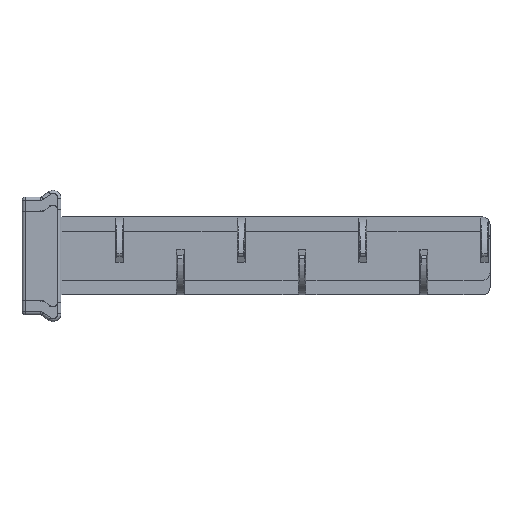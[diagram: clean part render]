
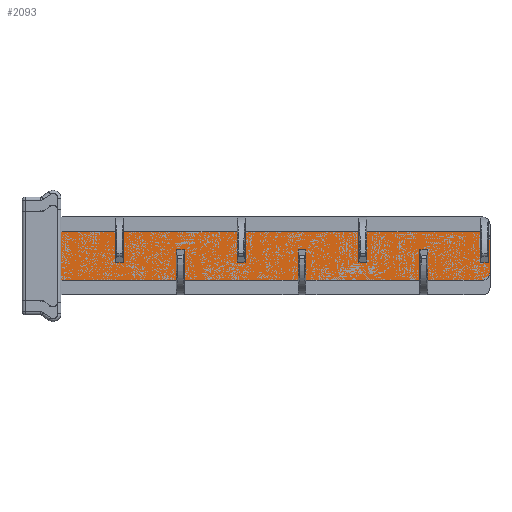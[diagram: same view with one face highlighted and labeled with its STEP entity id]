
A CAD part, left-side view. The second image highlights one B-rep face of the part: STEP entity #2093.
In plain terms, the highlighted planar face has unit normal (-1, 0, 0).
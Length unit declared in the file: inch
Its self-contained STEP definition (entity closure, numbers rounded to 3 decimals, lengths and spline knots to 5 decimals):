
#192=DIRECTION('',(0.,0.,1.));
#193=VECTOR('',#192,0.312);
#194=CARTESIAN_POINT('',(-0.025,0.,-0.156));
#195=LINE('',#194,#193);
#212=CARTESIAN_POINT('',(-0.025,-2.7,-0.106));
#213=DIRECTION('',(1.,0.,0.));
#214=DIRECTION('',(0.,-1.,0.));
#215=AXIS2_PLACEMENT_3D('',#212,#213,#214);
#217=DIRECTION('',(0.,1.,0.));
#218=VECTOR('',#217,0.35);
#219=CARTESIAN_POINT('',(-0.025,-2.7,-0.156));
#220=LINE('',#219,#218);
#221=DIRECTION('',(0.,0.,1.));
#222=VECTOR('',#221,0.17945);
#223=CARTESIAN_POINT('',(-0.025,-2.35,-0.156));
#224=LINE('',#223,#222);
#225=DIRECTION('',(0.,-1.,0.));
#226=VECTOR('',#225,0.05);
#227=CARTESIAN_POINT('',(-0.025,-2.3,0.02345));
#228=LINE('',#227,#226);
#229=DIRECTION('',(0.,0.,1.));
#230=VECTOR('',#229,0.17945);
#231=CARTESIAN_POINT('',(-0.025,-2.3,-0.156));
#232=LINE('',#231,#230);
#233=DIRECTION('',(0.,1.,0.));
#234=VECTOR('',#233,0.73);
#235=CARTESIAN_POINT('',(-0.025,-2.3,-0.156));
#236=LINE('',#235,#234);
#237=DIRECTION('',(0.,0.,1.));
#238=VECTOR('',#237,0.17945);
#239=CARTESIAN_POINT('',(-0.025,-1.57,-0.156));
#240=LINE('',#239,#238);
#241=DIRECTION('',(0.,-1.,0.));
#242=VECTOR('',#241,0.05);
#243=CARTESIAN_POINT('',(-0.025,-1.52,0.02345));
#244=LINE('',#243,#242);
#245=DIRECTION('',(0.,0.,1.));
#246=VECTOR('',#245,0.17945);
#247=CARTESIAN_POINT('',(-0.025,-1.52,-0.156));
#248=LINE('',#247,#246);
#249=DIRECTION('',(0.,1.,0.));
#250=VECTOR('',#249,0.73);
#251=CARTESIAN_POINT('',(-0.025,-1.52,-0.156));
#252=LINE('',#251,#250);
#253=DIRECTION('',(0.,0.,1.));
#254=VECTOR('',#253,0.17945);
#255=CARTESIAN_POINT('',(-0.025,-0.79,-0.156));
#256=LINE('',#255,#254);
#257=DIRECTION('',(0.,-1.,0.));
#258=VECTOR('',#257,0.05);
#259=CARTESIAN_POINT('',(-0.025,-0.74,0.02345));
#260=LINE('',#259,#258);
#261=DIRECTION('',(0.,0.,1.));
#262=VECTOR('',#261,0.17945);
#263=CARTESIAN_POINT('',(-0.025,-0.74,-0.156));
#264=LINE('',#263,#262);
#265=DIRECTION('',(0.,1.,0.));
#266=VECTOR('',#265,0.74);
#267=CARTESIAN_POINT('',(-0.025,-0.74,-0.156));
#268=LINE('',#267,#266);
#269=DIRECTION('',(0.,-1.,0.));
#270=VECTOR('',#269,0.35);
#271=CARTESIAN_POINT('',(-0.025,0.,0.156));
#272=LINE('',#271,#270);
#273=DIRECTION('',(0.,0.,-1.));
#274=VECTOR('',#273,0.17945);
#275=CARTESIAN_POINT('',(-0.025,-0.35,0.156));
#276=LINE('',#275,#274);
#277=DIRECTION('',(0.,-1.,0.));
#278=VECTOR('',#277,0.05);
#279=CARTESIAN_POINT('',(-0.025,-0.35,-0.02345));
#280=LINE('',#279,#278);
#281=DIRECTION('',(0.,0.,-1.));
#282=VECTOR('',#281,0.17945);
#283=CARTESIAN_POINT('',(-0.025,-0.4,0.156));
#284=LINE('',#283,#282);
#285=DIRECTION('',(0.,-1.,0.));
#286=VECTOR('',#285,0.73);
#287=CARTESIAN_POINT('',(-0.025,-0.4,0.156));
#288=LINE('',#287,#286);
#289=DIRECTION('',(0.,0.,-1.));
#290=VECTOR('',#289,0.17945);
#291=CARTESIAN_POINT('',(-0.025,-1.13,0.156));
#292=LINE('',#291,#290);
#293=DIRECTION('',(0.,-1.,0.));
#294=VECTOR('',#293,0.05);
#295=CARTESIAN_POINT('',(-0.025,-1.13,-0.02345));
#296=LINE('',#295,#294);
#297=DIRECTION('',(0.,0.,-1.));
#298=VECTOR('',#297,0.17945);
#299=CARTESIAN_POINT('',(-0.025,-1.18,0.156));
#300=LINE('',#299,#298);
#301=DIRECTION('',(0.,-1.,0.));
#302=VECTOR('',#301,0.73);
#303=CARTESIAN_POINT('',(-0.025,-1.18,0.156));
#304=LINE('',#303,#302);
#305=DIRECTION('',(0.,0.,-1.));
#306=VECTOR('',#305,0.17945);
#307=CARTESIAN_POINT('',(-0.025,-1.91,0.156));
#308=LINE('',#307,#306);
#309=DIRECTION('',(0.,-1.,0.));
#310=VECTOR('',#309,0.05);
#311=CARTESIAN_POINT('',(-0.025,-1.91,-0.02345));
#312=LINE('',#311,#310);
#313=DIRECTION('',(0.,0.,-1.));
#314=VECTOR('',#313,0.17945);
#315=CARTESIAN_POINT('',(-0.025,-1.96,0.156));
#316=LINE('',#315,#314);
#317=DIRECTION('',(0.,-1.,0.));
#318=VECTOR('',#317,0.73);
#319=CARTESIAN_POINT('',(-0.025,-1.96,0.156));
#320=LINE('',#319,#318);
#321=DIRECTION('',(0.,0.,-1.));
#322=VECTOR('',#321,0.17945);
#323=CARTESIAN_POINT('',(-0.025,-2.69,0.156));
#324=LINE('',#323,#322);
#325=DIRECTION('',(0.,-1.,0.));
#326=VECTOR('',#325,0.05);
#327=CARTESIAN_POINT('',(-0.025,-2.69,-0.02345));
#328=LINE('',#327,#326);
#329=DIRECTION('',(0.,0.,-1.));
#330=VECTOR('',#329,0.15945);
#331=CARTESIAN_POINT('',(-0.025,-2.74,0.136));
#332=LINE('',#331,#330);
#333=CARTESIAN_POINT('',(-0.025,-2.7,0.106));
#334=DIRECTION('',(1.,0.,0.));
#335=DIRECTION('',(0.,-0.8,0.6));
#336=AXIS2_PLACEMENT_3D('',#333,#334,#335);
#338=DIRECTION('',(0.,0.,-1.));
#339=VECTOR('',#338,0.212);
#340=CARTESIAN_POINT('',(-0.025,-2.75,0.106));
#341=LINE('',#340,#339);
#1366=CARTESIAN_POINT('',(-0.025,0.,-0.156));
#1367=CARTESIAN_POINT('',(-0.025,0.,0.156));
#1368=VERTEX_POINT('',#1366);
#1369=VERTEX_POINT('',#1367);
#1374=CARTESIAN_POINT('',(-0.025,-0.35,0.156));
#1375=CARTESIAN_POINT('',(-0.025,-0.35,-0.02345));
#1376=VERTEX_POINT('',#1374);
#1377=VERTEX_POINT('',#1375);
#1378=CARTESIAN_POINT('',(-0.025,-0.4,0.156));
#1379=CARTESIAN_POINT('',(-0.025,-0.4,-0.02345));
#1380=VERTEX_POINT('',#1378);
#1381=VERTEX_POINT('',#1379);
#1382=CARTESIAN_POINT('',(-0.025,-0.74,-0.156));
#1383=CARTESIAN_POINT('',(-0.025,-0.74,0.02345));
#1384=VERTEX_POINT('',#1382);
#1385=VERTEX_POINT('',#1383);
#1386=CARTESIAN_POINT('',(-0.025,-0.79,-0.156));
#1387=CARTESIAN_POINT('',(-0.025,-0.79,0.02345));
#1388=VERTEX_POINT('',#1386);
#1389=VERTEX_POINT('',#1387);
#1390=CARTESIAN_POINT('',(-0.025,-1.13,0.156));
#1391=CARTESIAN_POINT('',(-0.025,-1.13,-0.02345));
#1392=VERTEX_POINT('',#1390);
#1393=VERTEX_POINT('',#1391);
#1394=CARTESIAN_POINT('',(-0.025,-1.18,0.156));
#1395=CARTESIAN_POINT('',(-0.025,-1.18,-0.02345));
#1396=VERTEX_POINT('',#1394);
#1397=VERTEX_POINT('',#1395);
#1398=CARTESIAN_POINT('',(-0.025,-1.91,0.156));
#1399=CARTESIAN_POINT('',(-0.025,-1.91,-0.02345));
#1400=VERTEX_POINT('',#1398);
#1401=VERTEX_POINT('',#1399);
#1402=CARTESIAN_POINT('',(-0.025,-1.96,0.156));
#1403=CARTESIAN_POINT('',(-0.025,-1.96,-0.02345));
#1404=VERTEX_POINT('',#1402);
#1405=VERTEX_POINT('',#1403);
#1406=CARTESIAN_POINT('',(-0.025,-2.69,0.156));
#1407=CARTESIAN_POINT('',(-0.025,-2.69,-0.02345));
#1408=VERTEX_POINT('',#1406);
#1409=VERTEX_POINT('',#1407);
#1410=CARTESIAN_POINT('',(-0.025,-2.74,-0.02345));
#1411=VERTEX_POINT('',#1410);
#1412=CARTESIAN_POINT('',(-0.025,-1.52,-0.156));
#1413=CARTESIAN_POINT('',(-0.025,-1.52,0.02345));
#1414=VERTEX_POINT('',#1412);
#1415=VERTEX_POINT('',#1413);
#1416=CARTESIAN_POINT('',(-0.025,-1.57,-0.156));
#1417=CARTESIAN_POINT('',(-0.025,-1.57,0.02345));
#1418=VERTEX_POINT('',#1416);
#1419=VERTEX_POINT('',#1417);
#1420=CARTESIAN_POINT('',(-0.025,-2.3,-0.156));
#1421=CARTESIAN_POINT('',(-0.025,-2.3,0.02345));
#1422=VERTEX_POINT('',#1420);
#1423=VERTEX_POINT('',#1421);
#1424=CARTESIAN_POINT('',(-0.025,-2.35,-0.156));
#1425=CARTESIAN_POINT('',(-0.025,-2.35,0.02345));
#1426=VERTEX_POINT('',#1424);
#1427=VERTEX_POINT('',#1425);
#1580=CARTESIAN_POINT('',(-0.025,-2.75,-0.106));
#1581=CARTESIAN_POINT('',(-0.025,-2.7,-0.156));
#1582=VERTEX_POINT('',#1580);
#1583=VERTEX_POINT('',#1581);
#1584=CARTESIAN_POINT('',(-0.025,-2.74,0.136));
#1585=CARTESIAN_POINT('',(-0.025,-2.75,0.106));
#1586=VERTEX_POINT('',#1584);
#1587=VERTEX_POINT('',#1585);
#2021=CARTESIAN_POINT('',(-0.025,0.,0.));
#2022=DIRECTION('',(1.,0.,0.));
#2023=DIRECTION('',(0.,1.,0.));
#2024=AXIS2_PLACEMENT_3D('',#2021,#2022,#2023);
#2025=PLANE('',#2024);
#2027=ORIENTED_EDGE('',*,*,#2026,.T.);
#2029=ORIENTED_EDGE('',*,*,#2028,.T.);
#2031=ORIENTED_EDGE('',*,*,#2030,.T.);
#2033=ORIENTED_EDGE('',*,*,#2032,.F.);
#2035=ORIENTED_EDGE('',*,*,#2034,.F.);
#2037=ORIENTED_EDGE('',*,*,#2036,.T.);
#2039=ORIENTED_EDGE('',*,*,#2038,.T.);
#2041=ORIENTED_EDGE('',*,*,#2040,.F.);
#2043=ORIENTED_EDGE('',*,*,#2042,.F.);
#2045=ORIENTED_EDGE('',*,*,#2044,.T.);
#2047=ORIENTED_EDGE('',*,*,#2046,.T.);
#2049=ORIENTED_EDGE('',*,*,#2048,.F.);
#2051=ORIENTED_EDGE('',*,*,#2050,.F.);
#2053=ORIENTED_EDGE('',*,*,#2052,.T.);
#2054=ORIENTED_EDGE('',*,*,#2010,.T.);
#2056=ORIENTED_EDGE('',*,*,#2055,.T.);
#2058=ORIENTED_EDGE('',*,*,#2057,.T.);
#2060=ORIENTED_EDGE('',*,*,#2059,.T.);
#2062=ORIENTED_EDGE('',*,*,#2061,.F.);
#2064=ORIENTED_EDGE('',*,*,#2063,.T.);
#2066=ORIENTED_EDGE('',*,*,#2065,.T.);
#2068=ORIENTED_EDGE('',*,*,#2067,.T.);
#2070=ORIENTED_EDGE('',*,*,#2069,.F.);
#2072=ORIENTED_EDGE('',*,*,#2071,.T.);
#2074=ORIENTED_EDGE('',*,*,#2073,.T.);
#2076=ORIENTED_EDGE('',*,*,#2075,.T.);
#2078=ORIENTED_EDGE('',*,*,#2077,.F.);
#2080=ORIENTED_EDGE('',*,*,#2079,.T.);
#2082=ORIENTED_EDGE('',*,*,#2081,.T.);
#2084=ORIENTED_EDGE('',*,*,#2083,.T.);
#2086=ORIENTED_EDGE('',*,*,#2085,.F.);
#2088=ORIENTED_EDGE('',*,*,#2087,.T.);
#2090=ORIENTED_EDGE('',*,*,#2089,.T.);
#2091=EDGE_LOOP('',(#2027,#2029,#2031,#2033,#2035,#2037,#2039,#2041,#2043,#2045,
#2047,#2049,#2051,#2053,#2054,#2056,#2058,#2060,#2062,#2064,#2066,#2068,#2070,
#2072,#2074,#2076,#2078,#2080,#2082,#2084,#2086,#2088,#2090));
#2092=FACE_OUTER_BOUND('',#2091,.F.);
#2093=ADVANCED_FACE('',(#2092),#2025,.F.);
#216=CIRCLE('',#215,0.05);
#337=CIRCLE('',#336,0.05);
#2010=EDGE_CURVE('',#1368,#1369,#195,.T.);
#2026=EDGE_CURVE('',#1582,#1583,#216,.T.);
#2028=EDGE_CURVE('',#1583,#1426,#220,.T.);
#2030=EDGE_CURVE('',#1426,#1427,#224,.T.);
#2032=EDGE_CURVE('',#1423,#1427,#228,.T.);
#2034=EDGE_CURVE('',#1422,#1423,#232,.T.);
#2036=EDGE_CURVE('',#1422,#1418,#236,.T.);
#2038=EDGE_CURVE('',#1418,#1419,#240,.T.);
#2040=EDGE_CURVE('',#1415,#1419,#244,.T.);
#2042=EDGE_CURVE('',#1414,#1415,#248,.T.);
#2044=EDGE_CURVE('',#1414,#1388,#252,.T.);
#2046=EDGE_CURVE('',#1388,#1389,#256,.T.);
#2048=EDGE_CURVE('',#1385,#1389,#260,.T.);
#2050=EDGE_CURVE('',#1384,#1385,#264,.T.);
#2052=EDGE_CURVE('',#1384,#1368,#268,.T.);
#2055=EDGE_CURVE('',#1369,#1376,#272,.T.);
#2057=EDGE_CURVE('',#1376,#1377,#276,.T.);
#2059=EDGE_CURVE('',#1377,#1381,#280,.T.);
#2061=EDGE_CURVE('',#1380,#1381,#284,.T.);
#2063=EDGE_CURVE('',#1380,#1392,#288,.T.);
#2065=EDGE_CURVE('',#1392,#1393,#292,.T.);
#2067=EDGE_CURVE('',#1393,#1397,#296,.T.);
#2069=EDGE_CURVE('',#1396,#1397,#300,.T.);
#2071=EDGE_CURVE('',#1396,#1400,#304,.T.);
#2073=EDGE_CURVE('',#1400,#1401,#308,.T.);
#2075=EDGE_CURVE('',#1401,#1405,#312,.T.);
#2077=EDGE_CURVE('',#1404,#1405,#316,.T.);
#2079=EDGE_CURVE('',#1404,#1408,#320,.T.);
#2081=EDGE_CURVE('',#1408,#1409,#324,.T.);
#2083=EDGE_CURVE('',#1409,#1411,#328,.T.);
#2085=EDGE_CURVE('',#1586,#1411,#332,.T.);
#2087=EDGE_CURVE('',#1586,#1587,#337,.T.);
#2089=EDGE_CURVE('',#1587,#1582,#341,.T.);
